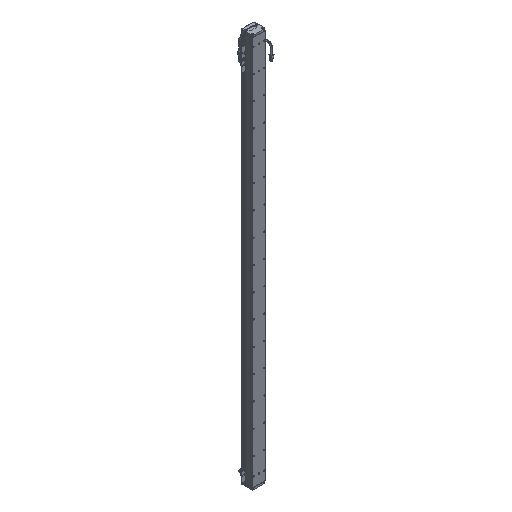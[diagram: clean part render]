
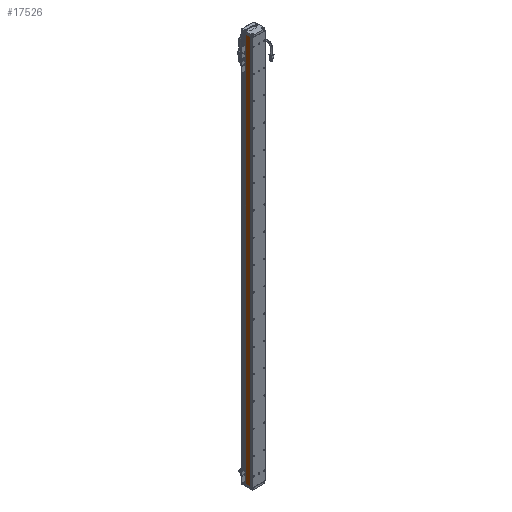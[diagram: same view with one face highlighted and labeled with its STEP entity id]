
A CAD part, isometric view. The second image highlights one B-rep face of the part: STEP entity #17526.
In plain terms, the highlighted planar face has unit normal (-1, 0, 0).
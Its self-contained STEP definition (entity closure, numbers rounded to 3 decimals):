
#152 = PLANE('',#153);
#153 = AXIS2_PLACEMENT_3D('',#154,#155,#156);
#154 = CARTESIAN_POINT('',(0.,0.,825.));
#155 = DIRECTION('',(-0.,0.,1.));
#156 = DIRECTION('',(1.,0.,0.));
#817 = PLANE('',#818);
#818 = AXIS2_PLACEMENT_3D('',#819,#820,#821);
#819 = CARTESIAN_POINT('',(0.,0.,-825.));
#820 = DIRECTION('',(-0.,0.,1.));
#821 = DIRECTION('',(1.,0.,0.));
#9779 = PLANE('',#9780);
#9780 = AXIS2_PLACEMENT_3D('',#9781,#9782,#9783);
#9781 = CARTESIAN_POINT('',(-27.5,-17.,820.));
#9782 = DIRECTION('',(-0.707,0.707,0.));
#9783 = DIRECTION('',(0.,0.,1.));
#10181 = VERTEX_POINT('',#10182);
#10182 = CARTESIAN_POINT('',(-27.1,4.6,825.));
#10196 = PLANE('',#10197);
#10197 = AXIS2_PLACEMENT_3D('',#10198,#10199,#10200);
#10198 = CARTESIAN_POINT('',(-27.1,4.6,820.));
#10199 = DIRECTION('',(-0.707,-0.707,0.));
#10200 = DIRECTION('',(0.,0.,1.));
#10208 = EDGE_CURVE('',#10181,#10209,#10211,.T.);
#10209 = VERTEX_POINT('',#10210);
#10210 = CARTESIAN_POINT('',(-27.1,-16.6,825.));
#10211 = SURFACE_CURVE('',#10212,(#10216,#10223),.PCURVE_S1.);
#10212 = LINE('',#10213,#10214);
#10213 = CARTESIAN_POINT('',(-27.1,8.,825.));
#10214 = VECTOR('',#10215,1.);
#10215 = DIRECTION('',(0.,-1.,0.));
#10216 = PCURVE('',#152,#10217);
#10217 = DEFINITIONAL_REPRESENTATION('',(#10218),#10222);
#10218 = LINE('',#10219,#10220);
#10219 = CARTESIAN_POINT('',(-27.1,8.));
#10220 = VECTOR('',#10221,1.);
#10221 = DIRECTION('',(0.,-1.));
#10222 = ( GEOMETRIC_REPRESENTATION_CONTEXT(2) 
PARAMETRIC_REPRESENTATION_CONTEXT() REPRESENTATION_CONTEXT('2D SPACE',''
  ) );
#10223 = PCURVE('',#10224,#10229);
#10224 = PLANE('',#10225);
#10225 = AXIS2_PLACEMENT_3D('',#10226,#10227,#10228);
#10226 = CARTESIAN_POINT('',(-27.1,8.,820.));
#10227 = DIRECTION('',(1.,0.,0.));
#10228 = DIRECTION('',(0.,1.,0.));
#10229 = DEFINITIONAL_REPRESENTATION('',(#10230),#10234);
#10230 = LINE('',#10231,#10232);
#10231 = CARTESIAN_POINT('',(0.,5.));
#10232 = VECTOR('',#10233,1.);
#10233 = DIRECTION('',(-1.,0.));
#10234 = ( GEOMETRIC_REPRESENTATION_CONTEXT(2) 
PARAMETRIC_REPRESENTATION_CONTEXT() REPRESENTATION_CONTEXT('2D SPACE',''
  ) );
#11248 = VERTEX_POINT('',#11249);
#11249 = CARTESIAN_POINT('',(-27.1,-16.6,-825.));
#11270 = EDGE_CURVE('',#11248,#11271,#11273,.T.);
#11271 = VERTEX_POINT('',#11272);
#11272 = CARTESIAN_POINT('',(-27.1,4.6,-825.));
#11273 = SURFACE_CURVE('',#11274,(#11278,#11285),.PCURVE_S1.);
#11274 = LINE('',#11275,#11276);
#11275 = CARTESIAN_POINT('',(-27.1,0.,-825.));
#11276 = VECTOR('',#11277,1.);
#11277 = DIRECTION('',(0.,1.,0.));
#11278 = PCURVE('',#817,#11279);
#11279 = DEFINITIONAL_REPRESENTATION('',(#11280),#11284);
#11280 = LINE('',#11281,#11282);
#11281 = CARTESIAN_POINT('',(-27.1,0.));
#11282 = VECTOR('',#11283,1.);
#11283 = DIRECTION('',(0.,1.));
#11284 = ( GEOMETRIC_REPRESENTATION_CONTEXT(2) 
PARAMETRIC_REPRESENTATION_CONTEXT() REPRESENTATION_CONTEXT('2D SPACE',''
  ) );
#11285 = PCURVE('',#10224,#11286);
#11286 = DEFINITIONAL_REPRESENTATION('',(#11287),#11291);
#11287 = LINE('',#11288,#11289);
#11288 = CARTESIAN_POINT('',(-8.,-1645.));
#11289 = VECTOR('',#11290,1.);
#11290 = DIRECTION('',(1.,0.));
#11291 = ( GEOMETRIC_REPRESENTATION_CONTEXT(2) 
PARAMETRIC_REPRESENTATION_CONTEXT() REPRESENTATION_CONTEXT('2D SPACE',''
  ) );
#17526 = ADVANCED_FACE('',(#17527),#10224,.F.);
#17527 = FACE_BOUND('',#17528,.T.);
#17528 = EDGE_LOOP('',(#17529,#17530,#17551,#17552));
#17529 = ORIENTED_EDGE('',*,*,#10208,.F.);
#17530 = ORIENTED_EDGE('',*,*,#17531,.T.);
#17531 = EDGE_CURVE('',#10181,#11271,#17532,.T.);
#17532 = SURFACE_CURVE('',#17533,(#17537,#17544),.PCURVE_S1.);
#17533 = LINE('',#17534,#17535);
#17534 = CARTESIAN_POINT('',(-27.1,4.6,-820.));
#17535 = VECTOR('',#17536,1.);
#17536 = DIRECTION('',(0.,0.,-1.));
#17537 = PCURVE('',#10224,#17538);
#17538 = DEFINITIONAL_REPRESENTATION('',(#17539),#17543);
#17539 = LINE('',#17540,#17541);
#17540 = CARTESIAN_POINT('',(-3.4,-1640.));
#17541 = VECTOR('',#17542,1.);
#17542 = DIRECTION('',(0.,-1.));
#17543 = ( GEOMETRIC_REPRESENTATION_CONTEXT(2) 
PARAMETRIC_REPRESENTATION_CONTEXT() REPRESENTATION_CONTEXT('2D SPACE',''
  ) );
#17544 = PCURVE('',#10196,#17545);
#17545 = DEFINITIONAL_REPRESENTATION('',(#17546),#17550);
#17546 = LINE('',#17547,#17548);
#17547 = CARTESIAN_POINT('',(-1640.,0.));
#17548 = VECTOR('',#17549,1.);
#17549 = DIRECTION('',(-1.,0.));
#17550 = ( GEOMETRIC_REPRESENTATION_CONTEXT(2) 
PARAMETRIC_REPRESENTATION_CONTEXT() REPRESENTATION_CONTEXT('2D SPACE',''
  ) );
#17551 = ORIENTED_EDGE('',*,*,#11270,.F.);
#17552 = ORIENTED_EDGE('',*,*,#17553,.T.);
#17553 = EDGE_CURVE('',#11248,#10209,#17554,.T.);
#17554 = SURFACE_CURVE('',#17555,(#17559,#17566),.PCURVE_S1.);
#17555 = LINE('',#17556,#17557);
#17556 = CARTESIAN_POINT('',(-27.1,-16.6,820.));
#17557 = VECTOR('',#17558,1.);
#17558 = DIRECTION('',(0.,0.,1.));
#17559 = PCURVE('',#10224,#17560);
#17560 = DEFINITIONAL_REPRESENTATION('',(#17561),#17565);
#17561 = LINE('',#17562,#17563);
#17562 = CARTESIAN_POINT('',(-24.6,0.));
#17563 = VECTOR('',#17564,1.);
#17564 = DIRECTION('',(0.,1.));
#17565 = ( GEOMETRIC_REPRESENTATION_CONTEXT(2) 
PARAMETRIC_REPRESENTATION_CONTEXT() REPRESENTATION_CONTEXT('2D SPACE',''
  ) );
#17566 = PCURVE('',#9779,#17567);
#17567 = DEFINITIONAL_REPRESENTATION('',(#17568),#17572);
#17568 = LINE('',#17569,#17570);
#17569 = CARTESIAN_POINT('',(0.,0.566));
#17570 = VECTOR('',#17571,1.);
#17571 = DIRECTION('',(1.,0.));
#17572 = ( GEOMETRIC_REPRESENTATION_CONTEXT(2) 
PARAMETRIC_REPRESENTATION_CONTEXT() REPRESENTATION_CONTEXT('2D SPACE',''
  ) );
